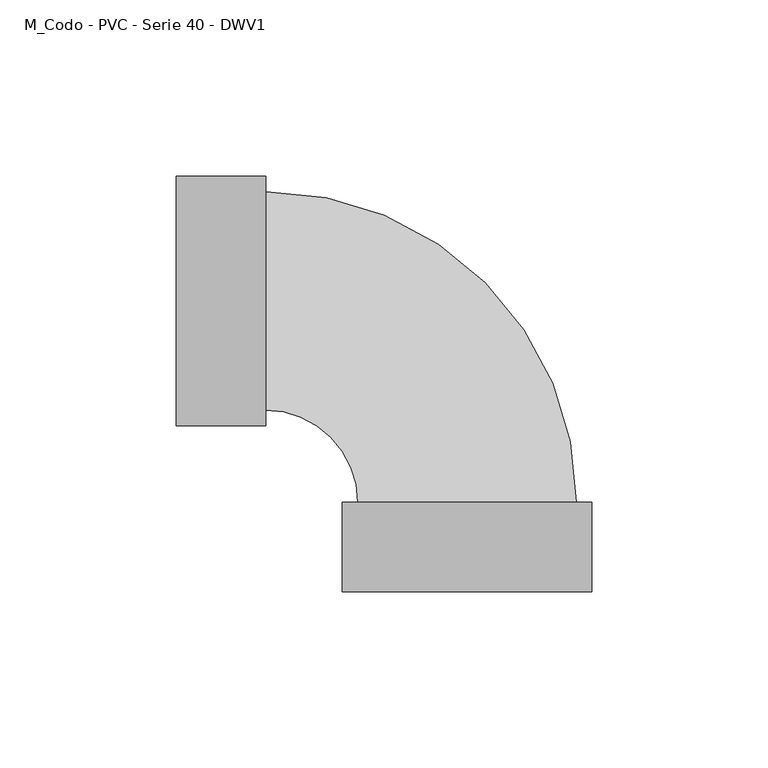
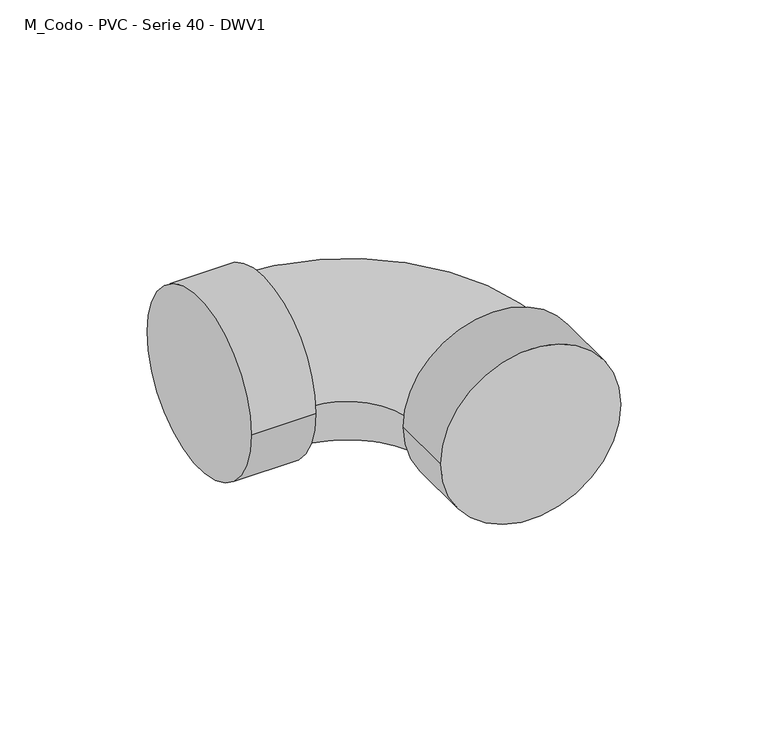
"""IFC4 building model written with IfcOpenShell, lengths in millimetres: pipe fitting geometry, M_Codo - PVC - Serie 40 - DWV1 : Estándar 2."""

from ifc_helpers import new_model, si_unit, point, frame, origin, place, context, project, spatial, circle_curve, ellipse_curve, trimmed, source, transform, mapped, element, save
from ifc_brep_helpers import plane_surface, cylinder_surface, revolved_surface, advanced_brep


def m_codo_pvc_serie_40_dwv1_326aaa64(model_context):
    return source(origin(), model_context, "Body", "AdvancedBrep", [
        advanced_brep(
        [(-82.5420625, 35.4191094, 0.0), (-82.5420625, -35.4191094, 0.0), (-57.1420625, 35.4191094, 0.0), (-57.1420625, -35.4191094, 0.0), (-57.1420625, 30.9800625, 0.0), (-57.1420625, -30.9800625, 0.0), (-30.9800625, -57.1420625, 0.0), (30.9800625, -57.1420625, 0.0), (35.4191094, -57.1420625, 0.0), (-35.4191094, -57.1420625, 0.0), (35.4191094, -82.5420625, 0.0), (-35.4191094, -82.5420625, 0.0)],
        [
            (0, 1, circle_curve(frame((-82.5420625, 0.0, 0.0), z_axis=(-1.0, 0.0, 0.0), x_axis=(0.0, -1.0, 0.0)), 35.4191094)),
            (1, 0, circle_curve(frame((-82.5420625, 0.0, 0.0), z_axis=(-1.0, 0.0, 0.0), x_axis=(0.0, -1.0, 0.0)), 35.4191094)),
            (2, 3, circle_curve(frame((-57.1420625, 0.0, 0.0), z_axis=(1.0, 0.0, 0.0), x_axis=(0.0, -1.0, 0.0)), 35.4191094)),
            (3, 2, circle_curve(frame((-57.1420625, 0.0, 0.0), z_axis=(1.0, 0.0, 0.0), x_axis=(0.0, -1.0, 0.0)), 35.4191094)),
            (4, 5, circle_curve(frame((-57.1420625, 0.0, 0.0), z_axis=(-1.0, 0.0, 0.0), x_axis=(0.0, -1.0, 0.0)), 30.9800625)),
            (5, 4, circle_curve(frame((-57.1420625, 0.0, 0.0), z_axis=(-1.0, 0.0, 0.0), x_axis=(0.0, -1.0, 0.0)), 30.9800625)),
            (1, 3),
            (2, 0),
            (6, 7, circle_curve(frame((0.0, -57.1420625, 0.0), z_axis=(0.0, 1.0, 0.0), x_axis=(-1.0, 0.0, 0.0)), 30.9800625)),
            (7, 4, circle_curve(frame((-57.1420625, -57.1420625, 0.0), z_axis=(0.0, 0.0, 1.0), x_axis=(0.0, 1.0, 0.0)), 88.122125)),
            (5, 6, circle_curve(frame((-57.1420625, -57.1420625, 0.0), z_axis=(0.0, 0.0, -1.0), x_axis=(0.0, 1.0, 0.0)), 26.162)),
            (7, 6, circle_curve(frame((0.0, -57.1420625, 0.0), z_axis=(0.0, 1.0, 0.0), x_axis=(-1.0, 0.0, 0.0)), 30.9800625)),
            (8, 9, circle_curve(frame((0.0, -57.1420625, 0.0), z_axis=(0.0, 1.0, 0.0), x_axis=(-1.0, 0.0, 0.0)), 35.4191094)),
            (9, 8, circle_curve(frame((0.0, -57.1420625, 0.0), z_axis=(0.0, 1.0, 0.0), x_axis=(-1.0, 0.0, 0.0)), 35.4191094)),
            (10, 11, circle_curve(frame((0.0, -82.5420625, 0.0), z_axis=(0.0, -1.0, 0.0), x_axis=(-1.0, 0.0, 0.0)), 35.4191094)),
            (11, 10, circle_curve(frame((0.0, -82.5420625, 0.0), z_axis=(0.0, -1.0, 0.0), x_axis=(-1.0, 0.0, 0.0)), 35.4191094)),
            (9, 11),
            (10, 8),
        ],
        [
            plane_surface(frame((-82.5420625, 0.0, 0.0), z_axis=(-1.0, 0.0, 0.0), x_axis=(0.0, 0.0, 1.0))),
            plane_surface(frame((-57.1420625, 0.0, 0.0), z_axis=(1.0, 0.0, 0.0), x_axis=(0.0, 0.0, 1.0))),
            cylinder_surface(frame((-82.5420625, 0.0, 0.0), z_axis=(-1.0, 0.0, 0.0), x_axis=(0.0, -1.0, 0.0)), 35.4191094),
            revolved_surface(trimmed(ellipse_curve(frame((-57.1420625, 0.0, 0.0), z_axis=(1.0, 0.0, 0.0), x_axis=(0.0, -1.0, 0.0)), 30.9800625, 30.9800625), [point((-57.1420625, 30.9800625, 0.0))], [point((-57.1420625, -30.9800625, 0.0))], True, "CARTESIAN"), (-57.1420625, -57.1420625, 0.0), (0.0, 0.0, 1.0)),
            revolved_surface(trimmed(ellipse_curve(frame((-57.1420625, 0.0, 0.0), z_axis=(1.0, 0.0, 0.0), x_axis=(0.0, -1.0, 0.0)), 30.9800625, 30.9800625), [point((-57.1420625, -30.9800625, 0.0))], [point((-57.1420625, 30.9800625, 0.0))], True, "CARTESIAN"), (-57.1420625, -57.1420625, 0.0), (0.0, 0.0, 1.0)),
            plane_surface(frame((0.0, -57.1420625, 0.0), z_axis=(0.0, 1.0, 0.0), x_axis=(0.0, 0.0, 1.0))),
            plane_surface(frame((0.0, -82.5420625, 0.0), z_axis=(0.0, -1.0, 0.0), x_axis=(0.0, 0.0, 1.0))),
            cylinder_surface(frame((0.0, -57.1420625, 0.0), z_axis=(0.0, 1.0, 0.0), x_axis=(-1.0, 0.0, 0.0)), 35.4191094),
        ],
        [
            (0, [[1, 2]]),
            (1, [[3, 4], [5, 6]]),
            (2, [[7, -3, 8, -2]]),
            (2, [[-8, -4, -7, -1]]),
            (3, [[9, 10, -6, 11]]),
            (4, [[-5, -10, 12, -11]]),
            (5, [[13, 14], [-12, -9]]),
            (6, [[15, 16]]),
            (7, [[17, -15, 18, -14]]),
            (7, [[-18, -16, -17, -13]]),
        ],
    ),
    ])


if __name__ == "__main__":
    model = new_model("IFC4")
    model_context = context("Model", 3, world=origin())
    ifc_project = project(units=[si_unit("LENGTHUNIT", "METRE", prefix="MILLI")], contexts=[model_context])
    site = spatial("IfcSite", under=ifc_project)
    building = spatial("IfcBuilding", under=site)
    placement = place(None, origin())
    m_codo_pvc_serie_40_dwv1_shape = m_codo_pvc_serie_40_dwv1_326aaa64(model_context)
    element("IfcPipeFitting", 1, ObjectType="M_Codo - PVC - Serie 40 - DWV1 : Estándar 2", at=placement, inside=building, context=model_context, shape_type="MappedRepresentation", body=[
        mapped(m_codo_pvc_serie_40_dwv1_shape, transform((0.0, 0.0, 0.0), x_axis=(1.0, 0.0, 0.0), y_axis=(0.0, 1.0, 0.0), z_axis=(0.0, 0.0, 1.0))),
    ])
    save(model, "model.ifc")
